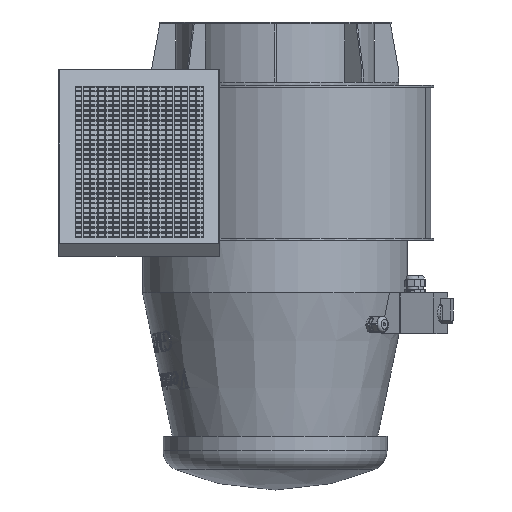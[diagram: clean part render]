
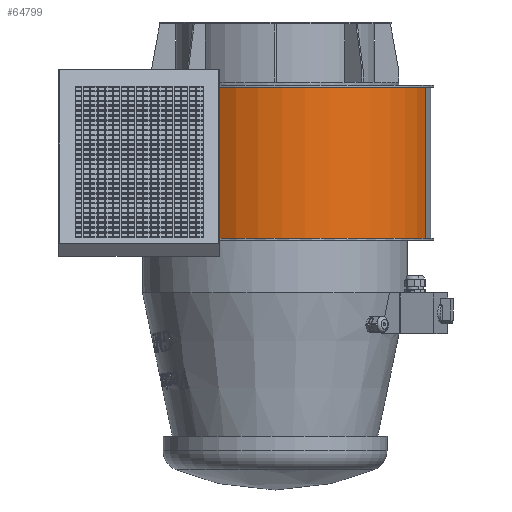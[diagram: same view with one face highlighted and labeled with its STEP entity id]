
A CAD part, front view. The second image highlights one B-rep face of the part: STEP entity #64799.
In plain terms, the highlighted cylindrical face has radius 216.037 mm (diameter 432.074 mm), a partial arc.
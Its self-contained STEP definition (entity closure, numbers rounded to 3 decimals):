
#1354=CYLINDRICAL_SURFACE('',#68068,216.037);
#2254=CIRCLE('',#65939,216.037);
#2256=CIRCLE('',#68069,216.037);
#5504=FACE_OUTER_BOUND('',#9566,.T.);
#9566=EDGE_LOOP('',(#54654,#54655,#54656,#54657));
#16857=LINE('',#108667,#24297);
#16858=LINE('',#108669,#24298);
#24297=VECTOR('',#81249,10.);
#24298=VECTOR('',#81250,10.);
#30015=VERTEX_POINT('',#104074);
#30016=VERTEX_POINT('',#104076);
#30043=VERTEX_POINT('',#108666);
#30044=VERTEX_POINT('',#108668);
#36189=EDGE_CURVE('',#30015,#30016,#2254,.T.);
#38348=EDGE_CURVE('',#30016,#30043,#16857,.T.);
#38349=EDGE_CURVE('',#30015,#30044,#16858,.T.);
#38350=EDGE_CURVE('',#30043,#30044,#2256,.T.);
#54654=ORIENTED_EDGE('',*,*,#38348,.F.);
#54655=ORIENTED_EDGE('',*,*,#36189,.F.);
#54656=ORIENTED_EDGE('',*,*,#38349,.T.);
#54657=ORIENTED_EDGE('',*,*,#38350,.F.);
#64799=ADVANCED_FACE('',(#5504),#1354,.T.);
#65939=AXIS2_PLACEMENT_3D('',#104077,#74838,#74839);
#68068=AXIS2_PLACEMENT_3D('',#108665,#81247,#81248);
#68069=AXIS2_PLACEMENT_3D('',#108670,#81251,#81252);
#74838=DIRECTION('center_axis',(0.,0.,-1.));
#74839=DIRECTION('ref_axis',(0.964,-0.267,0.));
#81247=DIRECTION('center_axis',(0.,0.,-1.));
#81248=DIRECTION('ref_axis',(-0.575,-0.818,0.));
#81249=DIRECTION('',(0.,0.,1.));
#81250=DIRECTION('',(0.,0.,1.));
#81251=DIRECTION('center_axis',(0.,0.,1.));
#81252=DIRECTION('ref_axis',(-0.575,-0.818,0.));
#104074=CARTESIAN_POINT('',(238.008,-53.693,-240.));
#104076=CARTESIAN_POINT('',(-94.376,-172.727,-240.));
#104077=CARTESIAN_POINT('Origin',(29.827,4.037,-240.));
#108665=CARTESIAN_POINT('Origin',(29.827,4.037,-240.));
#108666=CARTESIAN_POINT('',(-94.376,-172.727,0.));
#108667=CARTESIAN_POINT('',(-94.376,-172.727,-120.));
#108668=CARTESIAN_POINT('',(238.008,-53.693,0.));
#108669=CARTESIAN_POINT('',(238.008,-53.693,-120.));
#108670=CARTESIAN_POINT('Origin',(29.827,4.037,0.));
